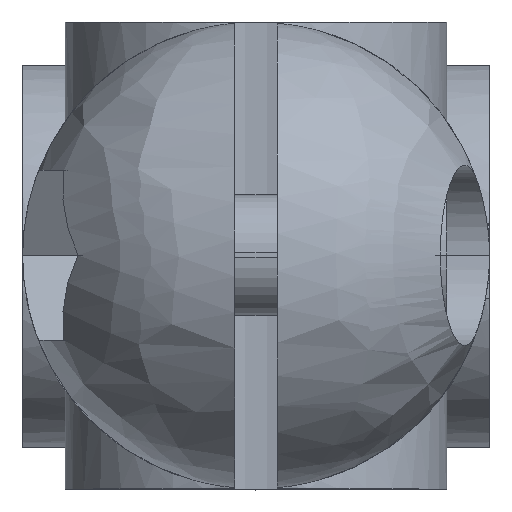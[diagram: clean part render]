
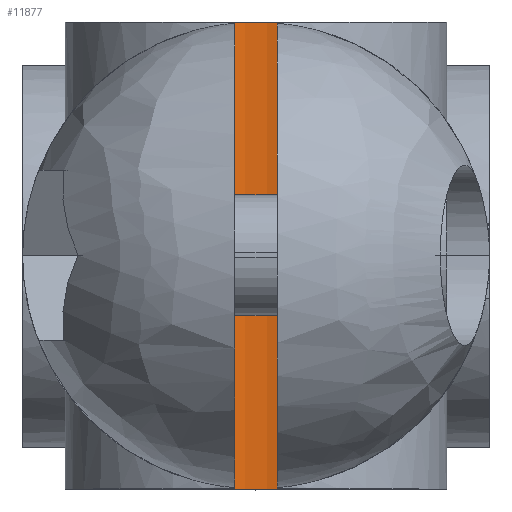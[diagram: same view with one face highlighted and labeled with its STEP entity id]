
A CAD part, top view. The second image highlights one B-rep face of the part: STEP entity #11877.
In plain terms, the highlighted cylindrical face has radius 6.075 mm (diameter 12.15 mm), a partial arc.
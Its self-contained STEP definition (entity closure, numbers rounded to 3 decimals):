
#245 = EDGE_LOOP ( 'NONE', ( #12351, #12613, #10505, #11720 ) ) ;
#941 = CARTESIAN_POINT ( 'NONE',  ( -3.339, 11., 2.925 ) ) ;
#1345 = EDGE_CURVE ( 'NONE', #9248, #3518, #11768, .T. ) ;
#1585 = DIRECTION ( 'NONE',  ( 0., -1., 0. ) ) ;
#1714 = EDGE_CURVE ( 'NONE', #2137, #3518, #4598, .T. ) ;
#1751 = CARTESIAN_POINT ( 'NONE',  ( -3.339, -11., 2.925 ) ) ;
#2137 = VERTEX_POINT ( 'NONE', #13299 ) ;
#2176 = EDGE_CURVE ( 'NONE', #9435, #9248, #10874, .T. ) ;
#2368 = CARTESIAN_POINT ( 'NONE',  ( 3.339, 11., 2.925 ) ) ;
#2403 = CARTESIAN_POINT ( 'NONE',  ( 3.339, 11., 2.925 ) ) ;
#2406 = AXIS2_PLACEMENT_3D ( 'NONE', #8266, #9144, #11292 ) ;
#3518 = VERTEX_POINT ( 'NONE', #2403 ) ;
#3547 = AXIS2_PLACEMENT_3D ( 'NONE', #8832, #1585, #11903 ) ;
#4598 = LINE ( 'NONE', #2368, #11857 ) ;
#5637 = AXIS2_PLACEMENT_3D ( 'NONE', #6783, #11901, #7881 ) ;
#6071 = VECTOR ( 'NONE', #8094, 1000. ) ;
#6547 = CIRCLE ( 'NONE', #2406, 6.075 ) ;
#6783 = CARTESIAN_POINT ( 'NONE',  ( 0., 11., 8. ) ) ;
#7798 = EDGE_CURVE ( 'NONE', #9435, #2137, #6547, .T. ) ;
#7881 = DIRECTION ( 'NONE',  ( 0., 0., 1. ) ) ;
#8094 = DIRECTION ( 'NONE',  ( 0., 1., 0. ) ) ;
#8266 = CARTESIAN_POINT ( 'NONE',  ( 0., -11., 8. ) ) ;
#8602 = CYLINDRICAL_SURFACE ( 'NONE', #5637, 6.075 ) ;
#8832 = CARTESIAN_POINT ( 'NONE',  ( 0., 11., 8. ) ) ;
#9144 = DIRECTION ( 'NONE',  ( 0., -1., 0. ) ) ;
#9248 = VERTEX_POINT ( 'NONE', #11565 ) ;
#9435 = VERTEX_POINT ( 'NONE', #1751 ) ;
#9560 = DIRECTION ( 'NONE',  ( 0., 1., 0. ) ) ;
#10505 = ORIENTED_EDGE ( 'NONE', *, *, #1345, .F. ) ;
#10874 = LINE ( 'NONE', #941, #6071 ) ;
#11292 = DIRECTION ( 'NONE',  ( 0., 0., 1. ) ) ;
#11565 = CARTESIAN_POINT ( 'NONE',  ( -3.339, 11., 2.925 ) ) ;
#11720 = ORIENTED_EDGE ( 'NONE', *, *, #2176, .F. ) ;
#11768 = CIRCLE ( 'NONE', #3547, 6.075 ) ;
#11857 = VECTOR ( 'NONE', #9560, 1000. ) ;
#11877 = ADVANCED_FACE ( 'NONE', ( #13315 ), #8602, .F. ) ;
#11901 = DIRECTION ( 'NONE',  ( 0., 1., 0. ) ) ;
#11903 = DIRECTION ( 'NONE',  ( 0., 0., 1. ) ) ;
#12351 = ORIENTED_EDGE ( 'NONE', *, *, #7798, .T. ) ;
#12613 = ORIENTED_EDGE ( 'NONE', *, *, #1714, .T. ) ;
#13299 = CARTESIAN_POINT ( 'NONE',  ( 3.339, -11., 2.925 ) ) ;
#13315 = FACE_OUTER_BOUND ( 'NONE', #245, .T. ) ;
